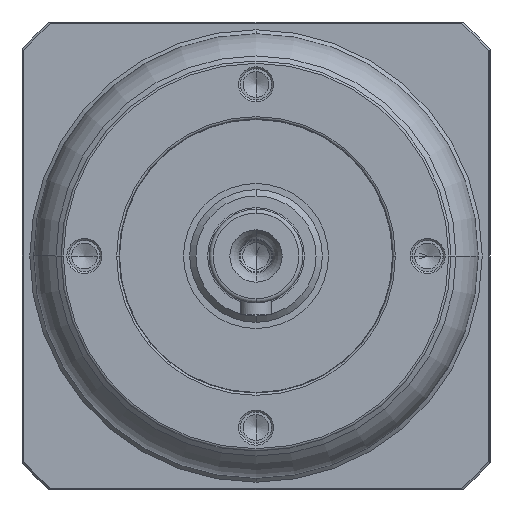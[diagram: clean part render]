
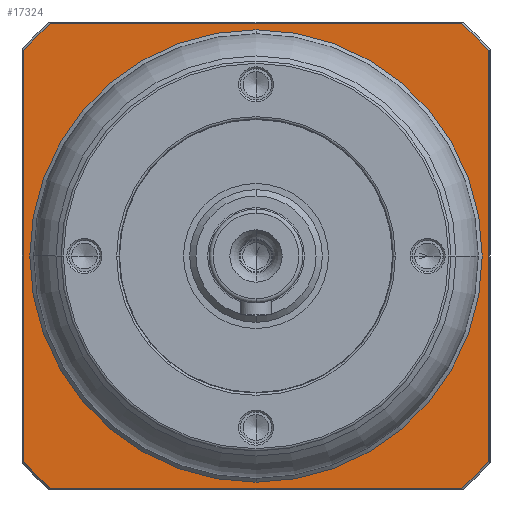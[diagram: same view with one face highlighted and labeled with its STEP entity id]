
A CAD part, left-side view. The second image highlights one B-rep face of the part: STEP entity #17324.
In plain terms, the highlighted planar face has unit normal (-1, 0, 0) as drawn and (0, 0, -1) by its records, which use the part's own axes.
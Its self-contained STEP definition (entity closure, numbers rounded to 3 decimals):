
#16198=CARTESIAN_POINT('',(0.,0.,
2.));
#16199=DIRECTION('',(0.,0.,-1.));
#16200=DIRECTION('',(0.,-1.,0.));
#16201=AXIS2_PLACEMENT_3D('',#16198,#16199,#16200);
#16203=CARTESIAN_POINT('',(0.,0.,
2.));
#16204=DIRECTION('',(0.,0.,-1.));
#16205=DIRECTION('',(0.,1.,0.));
#16206=AXIS2_PLACEMENT_3D('',#16203,#16204,#16205);
#16208=CARTESIAN_POINT('',(0.,0.,2.));
#16209=DIRECTION('',(0.,0.,1.));
#16210=DIRECTION('',(-0.749,-0.663,0.));
#16211=AXIS2_PLACEMENT_3D('',#16208,#16209,#16210);
#16213=DIRECTION('',(1.,0.,0.));
#16214=VECTOR('',#16213,52.764);
#16215=CARTESIAN_POINT('',(-26.382,-29.8,
2.));
#16216=LINE('',#16215,#16214);
#16217=CARTESIAN_POINT('',(0.,0.,2.));
#16218=DIRECTION('',(0.,0.,1.));
#16219=DIRECTION('',(0.663,-0.749,0.));
#16220=AXIS2_PLACEMENT_3D('',#16217,#16218,#16219);
#16222=DIRECTION('',(0.,1.,0.));
#16223=VECTOR('',#16222,52.764);
#16224=CARTESIAN_POINT('',(29.8,-26.382,
2.));
#16225=LINE('',#16224,#16223);
#16226=CARTESIAN_POINT('',(0.,0.,2.));
#16227=DIRECTION('',(0.,0.,1.));
#16228=DIRECTION('',(0.749,0.663,0.));
#16229=AXIS2_PLACEMENT_3D('',#16226,#16227,#16228);
#16231=DIRECTION('',(-1.,0.,0.));
#16232=VECTOR('',#16231,52.764);
#16233=CARTESIAN_POINT('',(26.382,29.8,2.));
#16234=LINE('',#16233,#16232);
#16235=CARTESIAN_POINT('',(0.,0.,2.));
#16236=DIRECTION('',(0.,0.,1.));
#16237=DIRECTION('',(-0.663,0.749,0.));
#16238=AXIS2_PLACEMENT_3D('',#16235,#16236,#16237);
#16240=DIRECTION('',(0.,-1.,0.));
#16241=VECTOR('',#16240,52.764);
#16242=CARTESIAN_POINT('',(-29.8,26.382,
2.));
#16243=LINE('',#16242,#16241);
#16979=CARTESIAN_POINT('',(0.,-29.,2.));
#16980=CARTESIAN_POINT('',(0.,29.,2.));
#16981=VERTEX_POINT('',#16979);
#16982=VERTEX_POINT('',#16980);
#17051=CARTESIAN_POINT('',(-29.8,-26.382,2.));
#17052=CARTESIAN_POINT('',(-26.382,-29.8,2.));
#17053=VERTEX_POINT('',#17051);
#17054=VERTEX_POINT('',#17052);
#17059=CARTESIAN_POINT('',(26.382,-29.8,
2.));
#17060=VERTEX_POINT('',#17059);
#17063=CARTESIAN_POINT('',(29.8,-26.382,2.));
#17064=VERTEX_POINT('',#17063);
#17067=CARTESIAN_POINT('',(29.8,26.382,2.));
#17068=VERTEX_POINT('',#17067);
#17071=CARTESIAN_POINT('',(26.382,29.8,2.));
#17072=VERTEX_POINT('',#17071);
#17075=CARTESIAN_POINT('',(-26.382,29.8,
2.));
#17076=VERTEX_POINT('',#17075);
#17081=CARTESIAN_POINT('',(-29.8,26.382,2.));
#17082=VERTEX_POINT('',#17081);
#17296=CARTESIAN_POINT('',(0.,0.,2.));
#17297=DIRECTION('',(0.,0.,1.));
#17298=DIRECTION('',(0.,1.,0.));
#17299=AXIS2_PLACEMENT_3D('',#17296,#17297,#17298);
#17300=PLANE('',#17299);
#17302=ORIENTED_EDGE('',*,*,#17301,.T.);
#17304=ORIENTED_EDGE('',*,*,#17303,.T.);
#17306=ORIENTED_EDGE('',*,*,#17305,.T.);
#17308=ORIENTED_EDGE('',*,*,#17307,.T.);
#17310=ORIENTED_EDGE('',*,*,#17309,.T.);
#17312=ORIENTED_EDGE('',*,*,#17311,.T.);
#17314=ORIENTED_EDGE('',*,*,#17313,.T.);
#17316=ORIENTED_EDGE('',*,*,#17315,.T.);
#17317=EDGE_LOOP('',(#17302,#17304,#17306,#17308,#17310,#17312,#17314,#17316));
#17318=FACE_OUTER_BOUND('',#17317,.F.);
#17320=ORIENTED_EDGE('',*,*,#17319,.T.);
#17321=ORIENTED_EDGE('',*,*,#17286,.T.);
#17322=EDGE_LOOP('',(#17320,#17321));
#17323=FACE_BOUND('',#17322,.F.);
#17324=ADVANCED_FACE('',(#17318,#17323),#17300,.F.);
#16202=CIRCLE('',#16201,29.);
#16207=CIRCLE('',#16206,29.);
#16212=CIRCLE('',#16211,39.8);
#16221=CIRCLE('',#16220,39.8);
#16230=CIRCLE('',#16229,39.8);
#16239=CIRCLE('',#16238,39.8);
#17286=EDGE_CURVE('',#16982,#16981,#16207,.T.);
#17301=EDGE_CURVE('',#17053,#17054,#16212,.T.);
#17303=EDGE_CURVE('',#17054,#17060,#16216,.T.);
#17305=EDGE_CURVE('',#17060,#17064,#16221,.T.);
#17307=EDGE_CURVE('',#17064,#17068,#16225,.T.);
#17309=EDGE_CURVE('',#17068,#17072,#16230,.T.);
#17311=EDGE_CURVE('',#17072,#17076,#16234,.T.);
#17313=EDGE_CURVE('',#17076,#17082,#16239,.T.);
#17315=EDGE_CURVE('',#17082,#17053,#16243,.T.);
#17319=EDGE_CURVE('',#16981,#16982,#16202,.T.);
